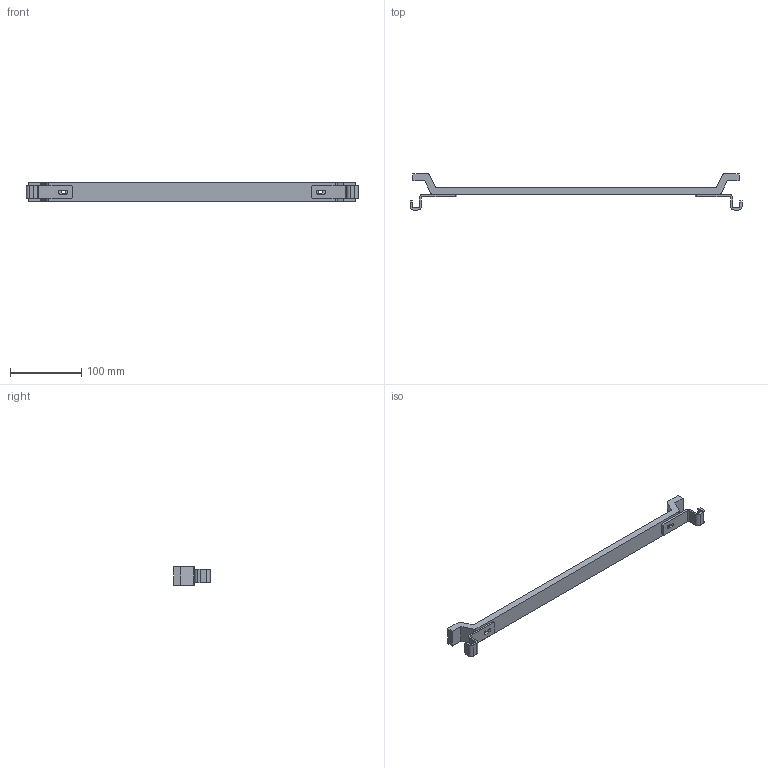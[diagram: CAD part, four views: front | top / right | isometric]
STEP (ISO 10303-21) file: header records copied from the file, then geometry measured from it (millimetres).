
FILE_DESCRIPTION (( 'STEP AP203' ), '1' );
FILE_NAME ('lmcm18g.STEP', '2008-02-27T21:10:20', ( '' ), ( '' ), 'SwSTEP 2.0', 'SolidWorks 2007', '' );
FILE_SCHEMA (( 'CONFIG_CONTROL_DESIGN' ));
Length unit declared in the file: inch
Products named in the file (3): lmcm18g; CrossMember_18Inch; CrossMemberBrkt
Assembly tree (3 placements, depth 2):
  lmcm18g
    CrossMemberBrkt  x2
    CrossMember_18Inch
Bounding box: 465.2 x 50.55 x 25.4 mm (x, y, z)
Volume: 127456.7 mm3; surface area: 42462.9 mm2
Topology: 3 solids, 3 shells, 76 faces, 210 edges, 140 vertices
Faces by surface type: plane 50, cylinder 26
Entity records: 1918 total; most frequent: CARTESIAN_POINT 280, DIRECTION 279, ORIENTED_EDGE 270, EDGE_CURVE 135, VECTOR 101, LINE 101, VERTEX_POINT 90, AXIS2_PLACEMENT_3D 89
